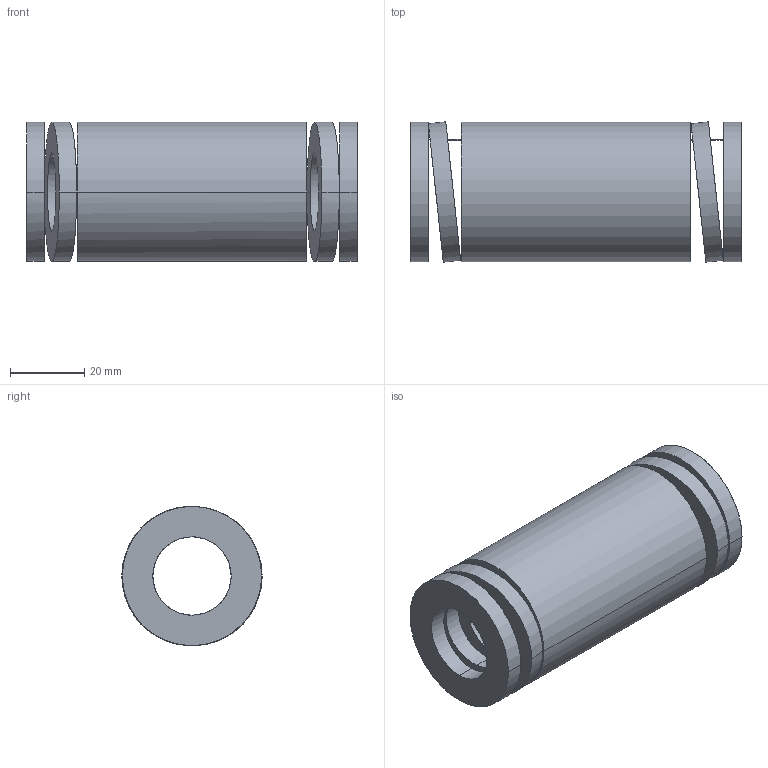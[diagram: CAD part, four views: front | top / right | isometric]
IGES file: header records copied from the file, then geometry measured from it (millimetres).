
Start section: START RECORD GO HERE.
Global section: file name: 392-B40-089.igs; native system: DASSAULT SYSTEMES CATIA V5 R20 - www.3ds.com; preprocessor: CATIA Version 5 Release 20 ; author: Utente; organization: NB04-ASUS; date: 20210813.131854; units: millimetre
Bounding box: 89 x 37.79 x 37.5 mm (x, y, z)
Surface area: 22407.2 mm2 (no closed solid volume)
Topology: 0 solids, 0 shells, 38 faces, 184 edges, 184 vertices
Faces by surface type: revolution 28, plane 10
